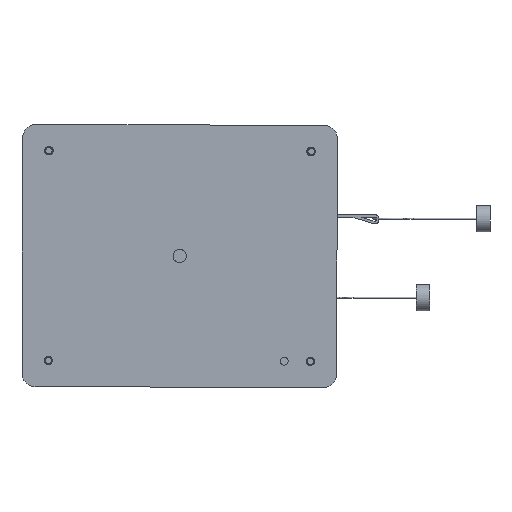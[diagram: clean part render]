
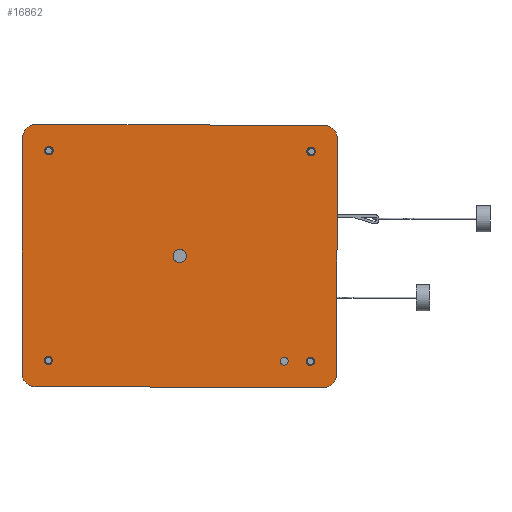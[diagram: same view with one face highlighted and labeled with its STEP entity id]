
A CAD part, left-side view. The second image highlights one B-rep face of the part: STEP entity #16862.
In plain terms, the highlighted planar face has unit normal (-1, 0, 0) as drawn and (0, 0, 1) by its records, which use the part's own axes.
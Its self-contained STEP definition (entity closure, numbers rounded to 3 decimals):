
#2665=LINE('',#40184,#3873);
#2668=LINE('',#40193,#3876);
#2672=LINE('',#40207,#3880);
#2673=LINE('',#40209,#3881);
#3873=VECTOR('',#20849,11.);
#3876=VECTOR('',#20858,11.);
#3880=VECTOR('',#20876,9.);
#3881=VECTOR('',#20879,9.);
#4263=PLANE('',#17819);
#4365=FACE_BOUND('',#6452,.T.);
#4366=FACE_BOUND('',#6453,.T.);
#4367=FACE_BOUND('',#6454,.T.);
#4368=FACE_BOUND('',#6455,.T.);
#4369=FACE_BOUND('',#6456,.T.);
#4370=FACE_BOUND('',#6457,.T.);
#5359=FACE_OUTER_BOUND('',#6451,.T.);
#6451=EDGE_LOOP('',(#15249,#15250,#15251,#15252,#15253,#15254,#15255,#15256));
#6452=EDGE_LOOP('',(#15257));
#6453=EDGE_LOOP('',(#15258));
#6454=EDGE_LOOP('',(#15259));
#6455=EDGE_LOOP('',(#15260));
#6456=EDGE_LOOP('',(#15261));
#6457=EDGE_LOOP('',(#15262));
#6744=CIRCLE('',#17796,0.15);
#6745=CIRCLE('',#17798,0.126);
#6746=CIRCLE('',#17800,0.126);
#6747=CIRCLE('',#17802,0.126);
#6748=CIRCLE('',#17804,0.126);
#6749=CIRCLE('',#17806,0.5);
#6750=CIRCLE('',#17809,0.5);
#6751=CIRCLE('',#17812,0.5);
#6752=CIRCLE('',#17814,0.5);
#6753=CIRCLE('',#17816,0.25);
#8184=VERTEX_POINT('',#40161);
#8185=VERTEX_POINT('',#40164);
#8186=VERTEX_POINT('',#40167);
#8187=VERTEX_POINT('',#40170);
#8188=VERTEX_POINT('',#40173);
#8189=VERTEX_POINT('',#40176);
#8190=VERTEX_POINT('',#40177);
#8191=VERTEX_POINT('',#40182);
#8192=VERTEX_POINT('',#40186);
#8193=VERTEX_POINT('',#40187);
#8194=VERTEX_POINT('',#40192);
#8195=VERTEX_POINT('',#40196);
#8196=VERTEX_POINT('',#40200);
#8197=VERTEX_POINT('',#40204);
#10559=EDGE_CURVE('',#8184,#8184,#6744,.T.);
#10560=EDGE_CURVE('',#8185,#8185,#6745,.T.);
#10561=EDGE_CURVE('',#8186,#8186,#6746,.T.);
#10562=EDGE_CURVE('',#8187,#8187,#6747,.T.);
#10563=EDGE_CURVE('',#8188,#8188,#6748,.T.);
#10564=EDGE_CURVE('',#8189,#8190,#6749,.T.);
#10568=EDGE_CURVE('',#8189,#8191,#2665,.T.);
#10569=EDGE_CURVE('',#8192,#8193,#6750,.T.);
#10572=EDGE_CURVE('',#8194,#8193,#2668,.T.);
#10574=EDGE_CURVE('',#8194,#8195,#6751,.T.);
#10576=EDGE_CURVE('',#8196,#8191,#6752,.T.);
#10578=EDGE_CURVE('',#8197,#8197,#6753,.T.);
#10579=EDGE_CURVE('',#8196,#8195,#2672,.T.);
#10580=EDGE_CURVE('',#8192,#8190,#2673,.T.);
#15249=ORIENTED_EDGE('',*,*,#10564,.F.);
#15250=ORIENTED_EDGE('',*,*,#10568,.T.);
#15251=ORIENTED_EDGE('',*,*,#10576,.F.);
#15252=ORIENTED_EDGE('',*,*,#10579,.T.);
#15253=ORIENTED_EDGE('',*,*,#10574,.F.);
#15254=ORIENTED_EDGE('',*,*,#10572,.T.);
#15255=ORIENTED_EDGE('',*,*,#10569,.F.);
#15256=ORIENTED_EDGE('',*,*,#10580,.T.);
#15257=ORIENTED_EDGE('',*,*,#10559,.T.);
#15258=ORIENTED_EDGE('',*,*,#10560,.T.);
#15259=ORIENTED_EDGE('',*,*,#10561,.T.);
#15260=ORIENTED_EDGE('',*,*,#10562,.T.);
#15261=ORIENTED_EDGE('',*,*,#10563,.T.);
#15262=ORIENTED_EDGE('',*,*,#10578,.T.);
#16862=ADVANCED_FACE('',(#5359,#4365,#4366,#4367,#4368,#4369,#4370),#4263,
 .T.);
#17796=AXIS2_PLACEMENT_3D('',#40162,#20822,#20823);
#17798=AXIS2_PLACEMENT_3D('',#40165,#20826,#20827);
#17800=AXIS2_PLACEMENT_3D('',#40168,#20830,#20831);
#17802=AXIS2_PLACEMENT_3D('',#40171,#20834,#20835);
#17804=AXIS2_PLACEMENT_3D('',#40174,#20838,#20839);
#17806=AXIS2_PLACEMENT_3D('',#40178,#20842,#20843);
#17809=AXIS2_PLACEMENT_3D('',#40188,#20852,#20853);
#17812=AXIS2_PLACEMENT_3D('',#40197,#20862,#20863);
#17814=AXIS2_PLACEMENT_3D('',#40201,#20867,#20868);
#17816=AXIS2_PLACEMENT_3D('',#40205,#20872,#20873);
#17819=AXIS2_PLACEMENT_3D('',#40210,#20880,#20881);
#20822=DIRECTION('center_axis',(0.,0.,-1.));
#20823=DIRECTION('ref_axis',(1.,0.,0.));
#20826=DIRECTION('center_axis',(0.,0.,-1.));
#20827=DIRECTION('ref_axis',(1.,0.,0.));
#20830=DIRECTION('center_axis',(0.,0.,-1.));
#20831=DIRECTION('ref_axis',(1.,0.,0.));
#20834=DIRECTION('center_axis',(0.,0.,-1.));
#20835=DIRECTION('ref_axis',(1.,0.,0.));
#20838=DIRECTION('center_axis',(0.,0.,-1.));
#20839=DIRECTION('ref_axis',(1.,0.,0.));
#20842=DIRECTION('center_axis',(0.,0.,-1.));
#20843=DIRECTION('ref_axis',(0.707,-0.707,0.));
#20849=DIRECTION('',(0.,1.,0.));
#20852=DIRECTION('center_axis',(0.,0.,-1.));
#20853=DIRECTION('ref_axis',(-0.707,-0.707,0.));
#20858=DIRECTION('',(0.,-1.,0.));
#20862=DIRECTION('center_axis',(0.,0.,-1.));
#20863=DIRECTION('ref_axis',(-0.707,0.707,0.));
#20867=DIRECTION('center_axis',(0.,0.,-1.));
#20868=DIRECTION('ref_axis',(0.707,0.707,0.));
#20872=DIRECTION('center_axis',(0.,0.,-1.));
#20873=DIRECTION('ref_axis',(-1.,0.,0.));
#20876=DIRECTION('',(-1.,0.,0.));
#20879=DIRECTION('',(1.,0.,0.));
#20880=DIRECTION('center_axis',(0.,0.,1.));
#20881=DIRECTION('ref_axis',(1.,0.,0.));
#40161=CARTESIAN_POINT('',(-4.15,-4.,0.5));
#40162=CARTESIAN_POINT('Origin',(-4.,-4.,0.5));
#40164=CARTESIAN_POINT('',(-3.874,-5.,0.5));
#40165=CARTESIAN_POINT('Origin',(-4.,-5.,0.5));
#40167=CARTESIAN_POINT('',(-3.874,5.,0.5));
#40168=CARTESIAN_POINT('Origin',(-4.,5.,0.5));
#40170=CARTESIAN_POINT('',(4.126,5.,0.5));
#40171=CARTESIAN_POINT('Origin',(4.,5.,0.5));
#40173=CARTESIAN_POINT('',(4.126,-5.,0.5));
#40174=CARTESIAN_POINT('Origin',(4.,-5.,0.5));
#40176=CARTESIAN_POINT('',(5.,-5.5,0.5));
#40177=CARTESIAN_POINT('',(4.5,-6.,0.5));
#40178=CARTESIAN_POINT('Origin',(4.5,-5.5,0.5));
#40182=CARTESIAN_POINT('',(5.,5.5,0.5));
#40184=CARTESIAN_POINT('',(5.,-6.,0.5));
#40186=CARTESIAN_POINT('',(-4.5,-6.,0.5));
#40187=CARTESIAN_POINT('',(-5.,-5.5,0.5));
#40188=CARTESIAN_POINT('Origin',(-4.5,-5.5,0.5));
#40192=CARTESIAN_POINT('',(-5.,5.5,0.5));
#40193=CARTESIAN_POINT('',(-5.,6.,0.5));
#40196=CARTESIAN_POINT('',(-4.5,6.,0.5));
#40197=CARTESIAN_POINT('Origin',(-4.5,5.5,0.5));
#40200=CARTESIAN_POINT('',(4.5,6.,0.5));
#40201=CARTESIAN_POINT('Origin',(4.5,5.5,0.5));
#40204=CARTESIAN_POINT('',(0.25,0.,0.5));
#40205=CARTESIAN_POINT('Origin',(0.,0.,0.5));
#40207=CARTESIAN_POINT('',(5.,6.,0.5));
#40209=CARTESIAN_POINT('',(-5.,-6.,0.5));
#40210=CARTESIAN_POINT('Origin',(0.,0.,
0.5));
